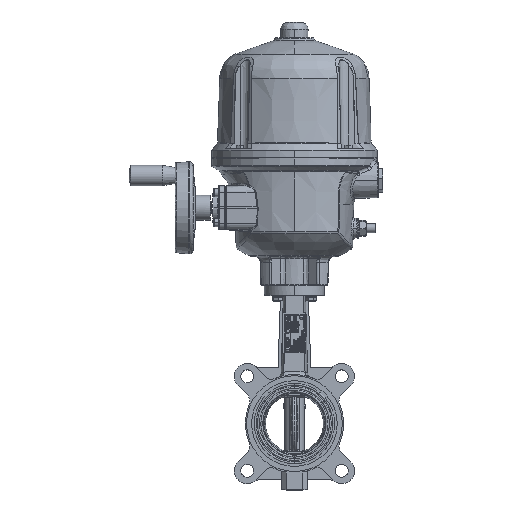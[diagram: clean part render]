
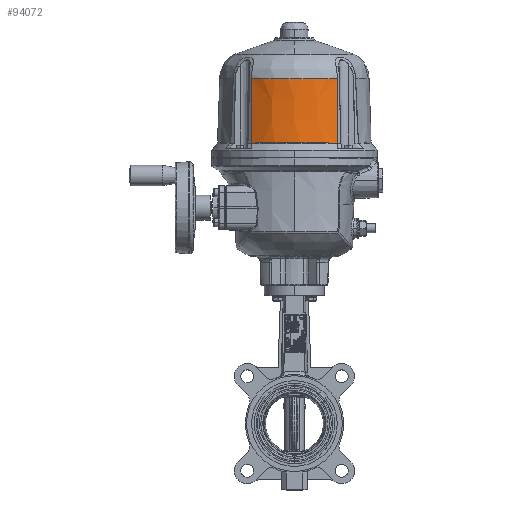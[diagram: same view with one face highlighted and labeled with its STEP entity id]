
A CAD part, top view. The second image highlights one B-rep face of the part: STEP entity #94072.
In plain terms, the highlighted conical face has half-angle 2 degrees and reference radius 83.436 mm.
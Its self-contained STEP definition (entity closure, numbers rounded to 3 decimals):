
#2052 = EDGE_CURVE ( 'NONE', #72214, #69787, #5413, .T. ) ;
#2460 = AXIS2_PLACEMENT_3D ( 'NONE', #62825, #73232, #80458 ) ;
#4381 = CARTESIAN_POINT ( 'NONE',  ( 46.462, 374.164, 82.347 ) ) ;
#5413 = CIRCLE ( 'NONE', #68843, 83.436 ) ;
#6543 = ORIENTED_EDGE ( 'NONE', *, *, #24734, .T. ) ;
#7084 = ORIENTED_EDGE ( 'NONE', *, *, #90173, .F. ) ;
#8660 = CARTESIAN_POINT ( 'NONE',  ( -46.808, 304.224, 85.089 ) ) ;
#9619 = CARTESIAN_POINT ( 'NONE',  ( -46.462, 374.164, 82.347 ) ) ;
#12325 = VERTEX_POINT ( 'NONE', #41218 ) ;
#14932 = EDGE_CURVE ( 'NONE', #69787, #12325, #42458, .T. ) ;
#15756 = EDGE_CURVE ( 'NONE', #102396, #36995, #20003, .T. ) ;
#17912 = CARTESIAN_POINT ( 'NONE',  ( -46.452, 374.099, 82.357 ) ) ;
#20003 = B_SPLINE_CURVE_WITH_KNOTS ( 'NONE', 3,
 ( #69185, #79110, #95243, #26749, #27312, #17912, #86916, #44936, #51577, #76940 ),
 .UNSPECIFIED., .F., .F.,
 ( 4, 1, 1, 2, 2, 4 ),
 ( 0., 0.25, 0.375, 0.437, 0.5, 1. ),
 .UNSPECIFIED. ) ;
#21406 = CARTESIAN_POINT ( 'NONE',  ( -46.844, 304.347, 85.045 ) ) ;
#23780 = DIRECTION ( 'NONE',  ( -1., 0., 0. ) ) ;
#23878 = CARTESIAN_POINT ( 'NONE',  ( 46.698, 331.316, 84.006 ) ) ;
#24734 = EDGE_CURVE ( 'NONE', #107496, #102396, #64783, .T. ) ;
#26246 = CARTESIAN_POINT ( 'NONE',  ( -46.44, 374.082, 82.366 ) ) ;
#26749 = CARTESIAN_POINT ( 'NONE',  ( -46.459, 374.152, 82.35 ) ) ;
#26792 = CARTESIAN_POINT ( 'NONE',  ( -46.413, 373.828, 82.396 ) ) ;
#27312 = CARTESIAN_POINT ( 'NONE',  ( -46.454, 374.12, 82.354 ) ) ;
#28759 = CARTESIAN_POINT ( 'NONE',  ( 46.44, 374.082, 82.366 ) ) ;
#31416 = EDGE_LOOP ( 'NONE', ( #101083, #73594, #46702, #68311, #40454, #7084, #98145, #6543 ) ) ;
#35790 = CARTESIAN_POINT ( 'NONE',  ( 46.496, 304.015, 85.49 ) ) ;
#36995 = VERTEX_POINT ( 'NONE', #26792 ) ;
#37959 = CARTESIAN_POINT ( 'NONE',  ( -46.413, 373.828, 82.396 ) ) ;
#37991 = FACE_OUTER_BOUND ( 'NONE', #31416, .T. ) ;
#38088 = CARTESIAN_POINT ( 'NONE',  ( 46.413, 374.082, 82.385 ) ) ;
#38321 = CARTESIAN_POINT ( 'NONE',  ( 46.462, 374.161, 82.347 ) ) ;
#38572 = AXIS2_PLACEMENT_3D ( 'NONE', #48051, #50225, #23780 ) ;
#40454 = ORIENTED_EDGE ( 'NONE', *, *, #69216, .T. ) ;
#41218 = CARTESIAN_POINT ( 'NONE',  ( 46.413, 373.828, 82.396 ) ) ;
#42458 = B_SPLINE_CURVE_WITH_KNOTS ( 'NONE', 3,
 ( #99592, #23878, #57527, #91242 ),
 .UNSPECIFIED., .F., .F.,
 ( 4, 4 ),
 ( 0., 1. ),
 .UNSPECIFIED. ) ;
#44936 = CARTESIAN_POINT ( 'NONE',  ( -46.438, 374.005, 82.37 ) ) ;
#46702 = ORIENTED_EDGE ( 'NONE', *, *, #2052, .T. ) ;
#47118 = CARTESIAN_POINT ( 'NONE',  ( 46.413, 373.828, 82.396 ) ) ;
#48051 = CARTESIAN_POINT ( 'NONE',  ( 0., 374.082, 16. ) ) ;
#49206 = CARTESIAN_POINT ( 'NONE',  ( 0., 304.347, 16. ) ) ;
#50225 = DIRECTION ( 'NONE',  ( 0., 1., 0. ) ) ;
#51081 = CARTESIAN_POINT ( 'NONE',  ( 46.479, 374.329, 82.328 ) ) ;
#51329 = CARTESIAN_POINT ( 'NONE',  ( -46.413, 374.082, 82.385 ) ) ;
#51577 = CARTESIAN_POINT ( 'NONE',  ( -46.427, 373.922, 82.382 ) ) ;
#54884 = CARTESIAN_POINT ( 'NONE',  ( 46.437, 373.995, 82.372 ) ) ;
#56213 = CIRCLE ( 'NONE', #38572, 81.001 ) ;
#57527 = CARTESIAN_POINT ( 'NONE',  ( 46.551, 354.476, 83.124 ) ) ;
#59664 = DIRECTION ( 'NONE',  ( 0., 1., 0. ) ) ;
#62238 = CARTESIAN_POINT ( 'NONE',  ( 46.413, 374.082, 82.385 ) ) ;
#62825 = CARTESIAN_POINT ( 'NONE',  ( 0., 304.347, 16. ) ) ;
#62927 = CARTESIAN_POINT ( 'NONE',  ( 46.479, 374.329, 82.328 ) ) ;
#63341 = CARTESIAN_POINT ( 'NONE',  ( -46.551, 354.476, 83.124 ) ) ;
#64496 = VERTEX_POINT ( 'NONE', #62238 ) ;
#64783 = B_SPLINE_CURVE_WITH_KNOTS ( 'NONE', 3,
 ( #101913, #26246, #9619, #104118 ),
 .UNSPECIFIED., .F., .F.,
 ( 4, 4 ),
 ( 0., 1. ),
 .UNSPECIFIED. ) ;
#68311 = ORIENTED_EDGE ( 'NONE', *, *, #14932, .T. ) ;
#68843 = AXIS2_PLACEMENT_3D ( 'NONE', #49206, #59664, #83441 ) ;
#69185 = CARTESIAN_POINT ( 'NONE',  ( -46.479, 374.329, 82.328 ) ) ;
#69216 = EDGE_CURVE ( 'NONE', #12325, #103215, #97879, .T. ) ;
#69787 = VERTEX_POINT ( 'NONE', #35790 ) ;
#72214 = VERTEX_POINT ( 'NONE', #8660 ) ;
#73232 = DIRECTION ( 'NONE',  ( 0., -1., 0. ) ) ;
#73594 = ORIENTED_EDGE ( 'NONE', *, *, #109037, .T. ) ;
#76940 = CARTESIAN_POINT ( 'NONE',  ( -46.413, 373.828, 82.396 ) ) ;
#79110 = CARTESIAN_POINT ( 'NONE',  ( -46.475, 374.287, 82.333 ) ) ;
#80458 = DIRECTION ( 'NONE',  ( 0., 0., -1. ) ) ;
#80798 = CARTESIAN_POINT ( 'NONE',  ( 46.479, 374.329, 82.328 ) ) ;
#82562 = CARTESIAN_POINT ( 'NONE',  ( -46.479, 374.329, 82.328 ) ) ;
#83441 = DIRECTION ( 'NONE',  ( -1., 0., 0. ) ) ;
#86861 = EDGE_CURVE ( 'NONE', #107496, #64496, #56213, .T. ) ;
#86916 = CARTESIAN_POINT ( 'NONE',  ( -46.45, 374.087, 82.359 ) ) ;
#90173 = EDGE_CURVE ( 'NONE', #64496, #103215, #103754, .T. ) ;
#91242 = CARTESIAN_POINT ( 'NONE',  ( 46.413, 373.828, 82.396 ) ) ;
#94072 = ADVANCED_FACE ( 'NONE', ( #37991 ), #101280, .T. ) ;
#95243 = CARTESIAN_POINT ( 'NONE',  ( -46.468, 374.225, 82.34 ) ) ;
#97087 = CARTESIAN_POINT ( 'NONE',  ( -46.698, 331.316, 84.006 ) ) ;
#97879 = B_SPLINE_CURVE_WITH_KNOTS ( 'NONE', 3,
 ( #47118, #54884, #38321, #80798 ),
 .UNSPECIFIED., .F., .F.,
 ( 4, 4 ),
 ( 0., 0.001 ),
 .UNSPECIFIED. ) ;
#98145 = ORIENTED_EDGE ( 'NONE', *, *, #86861, .F. ) ;
#99592 = CARTESIAN_POINT ( 'NONE',  ( 46.844, 304.347, 85.045 ) ) ;
#101083 = ORIENTED_EDGE ( 'NONE', *, *, #15756, .T. ) ;
#101280 = CONICAL_SURFACE ( 'NONE', #2460, 83.436, 0.035 ) ;
#101913 = CARTESIAN_POINT ( 'NONE',  ( -46.413, 374.082, 82.385 ) ) ;
#102018 = B_SPLINE_CURVE_WITH_KNOTS ( 'NONE', 3,
 ( #37959, #63341, #97087, #21406 ),
 .UNSPECIFIED., .F., .F.,
 ( 4, 4 ),
 ( 0., 1. ),
 .UNSPECIFIED. ) ;
#102396 = VERTEX_POINT ( 'NONE', #82562 ) ;
#103215 = VERTEX_POINT ( 'NONE', #51081 ) ;
#103754 = B_SPLINE_CURVE_WITH_KNOTS ( 'NONE', 3,
 ( #38088, #28759, #4381, #62927 ),
 .UNSPECIFIED., .F., .F.,
 ( 4, 4 ),
 ( 0., 1. ),
 .UNSPECIFIED. ) ;
#104118 = CARTESIAN_POINT ( 'NONE',  ( -46.479, 374.329, 82.328 ) ) ;
#107496 = VERTEX_POINT ( 'NONE', #51329 ) ;
#109037 = EDGE_CURVE ( 'NONE', #36995, #72214, #102018, .T. ) ;
